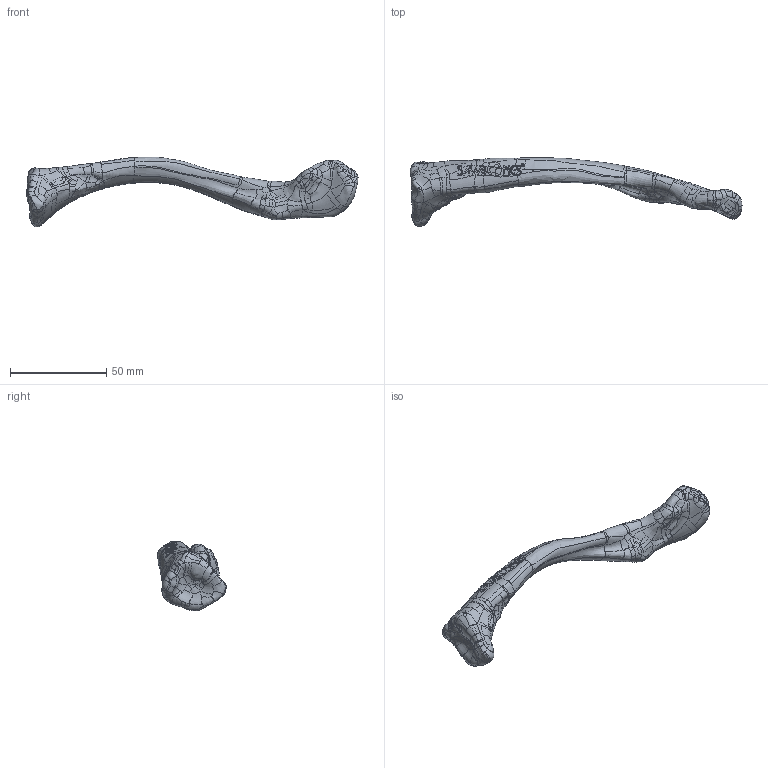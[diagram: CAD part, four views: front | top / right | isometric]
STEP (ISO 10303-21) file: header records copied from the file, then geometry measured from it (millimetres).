
FILE_DESCRIPTION (( 'STEP AP203' ), '1' );
FILE_NAME ('1020.STEP', '2025-05-21T18:06:07', ( '' ), ( '' ), 'SwSTEP 2.0', 'SolidWorks 2024', '' );
FILE_SCHEMA (( 'CONFIG_CONTROL_DESIGN' ));
Length unit declared in the file: millimetre
Products named in the file (1): 1020
Bounding box: 172.15 x 35.62 x 36.18 mm (x, y, z)
Volume: 36882.1 mm3; surface area: 10463.1 mm2
Topology: 1 solids, 1 shells, 755 faces, 1892 edges, 1145 vertices
Faces by surface type: bspline 755
Entity records: 346609 total; most frequent: CARTESIAN_POINT 334780, ORIENTED_EDGE 3784, B_SPLINE_CURVE_WITH_KNOTS 1892, EDGE_CURVE 1892, VERTEX_POINT 1145, EDGE_LOOP 761, B_SPLINE_SURFACE_WITH_KNOTS 755, ADVANCED_FACE 755
